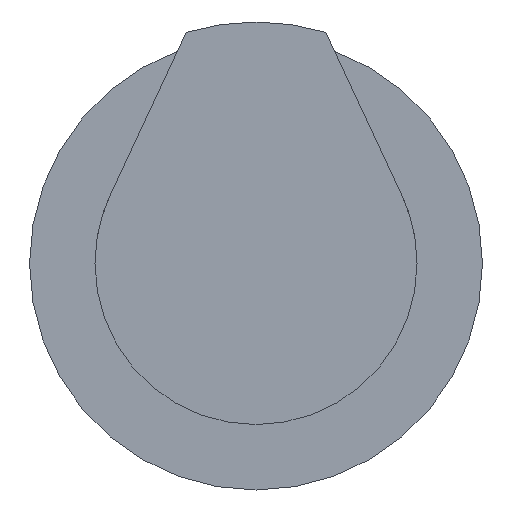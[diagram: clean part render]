
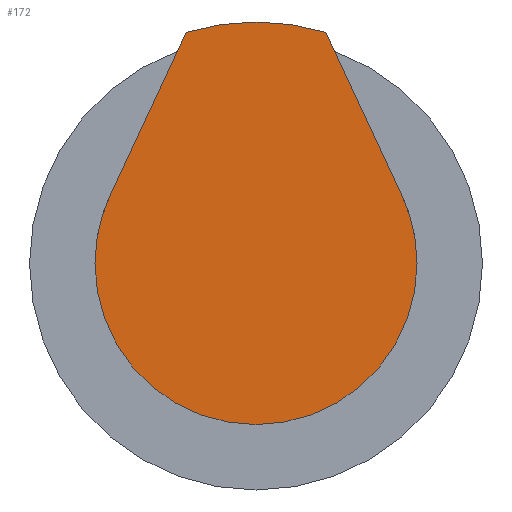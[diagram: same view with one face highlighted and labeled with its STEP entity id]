
A CAD part, front view. The second image highlights one B-rep face of the part: STEP entity #172.
In plain terms, the highlighted planar face has unit normal (0, -1, 0).
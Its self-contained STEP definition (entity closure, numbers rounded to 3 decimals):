
#1=DIRECTION('',(-0.423,0.,-0.906));
#2=VECTOR('',#1,1.789);
#3=CARTESIAN_POINT('',(-0.694,-19.,2.297));
#4=LINE('',#3,#2);
#5=CARTESIAN_POINT('',(0.,-19.,0.));
#6=DIRECTION('',(0.,-1.,0.));
#7=DIRECTION('',(0.289,0.,0.957));
#8=AXIS2_PLACEMENT_3D('',#5,#6,#7);
#10=DIRECTION('',(-0.423,0.,0.906));
#11=VECTOR('',#10,1.789);
#12=CARTESIAN_POINT('',(1.45,-19.,0.676));
#13=LINE('',#12,#11);
#23=CARTESIAN_POINT('',(0.,-19.,0.));
#24=DIRECTION('',(0.,-1.,0.));
#25=DIRECTION('',(-0.906,0.,0.423));
#26=AXIS2_PLACEMENT_3D('',#23,#24,#25);
#28=CARTESIAN_POINT('',(0.,-19.,0.));
#29=DIRECTION('',(0.,-1.,0.));
#30=DIRECTION('',(1.,0.,0.));
#31=AXIS2_PLACEMENT_3D('',#28,#29,#30);
#66=CARTESIAN_POINT('',(0.,-19.,0.));
#67=DIRECTION('',(0.,1.,0.));
#68=DIRECTION('',(1.,0.,0.));
#69=AXIS2_PLACEMENT_3D('',#66,#67,#68);
#119=CARTESIAN_POINT('',(1.6,-19.,0.));
#121=VERTEX_POINT('',#119);
#123=CARTESIAN_POINT('',(-1.6,-19.,0.));
#125=VERTEX_POINT('',#123);
#135=CARTESIAN_POINT('',(-1.45,-19.,0.676));
#136=VERTEX_POINT('',#135);
#137=CARTESIAN_POINT('',(1.45,-19.,0.676));
#138=VERTEX_POINT('',#137);
#143=CARTESIAN_POINT('',(-0.694,-19.,2.297));
#144=VERTEX_POINT('',#143);
#145=CARTESIAN_POINT('',(0.694,-19.,2.297));
#146=VERTEX_POINT('',#145);
#153=CARTESIAN_POINT('',(0.,-19.,0.));
#154=DIRECTION('',(0.,-1.,0.));
#155=DIRECTION('',(-1.,0.,0.));
#156=AXIS2_PLACEMENT_3D('',#153,#154,#155);
#157=PLANE('',#156);
#159=ORIENTED_EDGE('',*,*,#158,.F.);
#161=ORIENTED_EDGE('',*,*,#160,.F.);
#163=ORIENTED_EDGE('',*,*,#162,.F.);
#165=ORIENTED_EDGE('',*,*,#164,.F.);
#167=ORIENTED_EDGE('',*,*,#166,.F.);
#169=ORIENTED_EDGE('',*,*,#168,.T.);
#170=EDGE_LOOP('',(#159,#161,#163,#165,#167,#169));
#171=FACE_OUTER_BOUND('',#170,.F.);
#172=ADVANCED_FACE('',(#171),#157,.T.);
#9=CIRCLE('',#8,2.4);
#27=CIRCLE('',#26,1.6);
#32=CIRCLE('',#31,1.6);
#70=CIRCLE('',#69,1.6);
#158=EDGE_CURVE('',#136,#125,#27,.T.);
#160=EDGE_CURVE('',#144,#136,#4,.T.);
#162=EDGE_CURVE('',#146,#144,#9,.T.);
#164=EDGE_CURVE('',#138,#146,#13,.T.);
#166=EDGE_CURVE('',#121,#138,#32,.T.);
#168=EDGE_CURVE('',#121,#125,#70,.T.);
